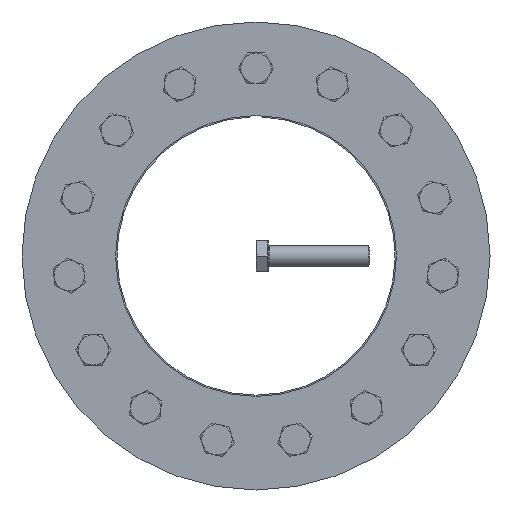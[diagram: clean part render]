
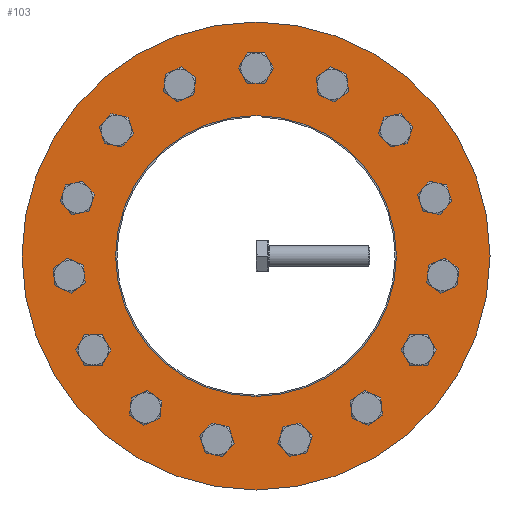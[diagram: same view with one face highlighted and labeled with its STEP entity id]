
A CAD part, front view. The second image highlights one B-rep face of the part: STEP entity #103.
In plain terms, the highlighted planar face has unit normal (0, -1, 0).
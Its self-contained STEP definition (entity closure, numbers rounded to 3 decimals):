
#103 = ADVANCED_FACE( '', ( #254, #255, #256, #257, #258, #259, #260, #261, #262, #263, #264, #265, #266, #267, #268, #269, #270 ), #271, .F. );
#254 = FACE_BOUND( '', #557, .T. );
#255 = FACE_BOUND( '', #558, .T. );
#256 = FACE_BOUND( '', #559, .T. );
#257 = FACE_BOUND( '', #560, .T. );
#258 = FACE_BOUND( '', #561, .T. );
#259 = FACE_BOUND( '', #562, .T. );
#260 = FACE_BOUND( '', #563, .T. );
#261 = FACE_OUTER_BOUND( '', #564, .T. );
#262 = FACE_BOUND( '', #565, .T. );
#263 = FACE_BOUND( '', #566, .T. );
#264 = FACE_BOUND( '', #567, .T. );
#265 = FACE_BOUND( '', #568, .T. );
#266 = FACE_BOUND( '', #569, .T. );
#267 = FACE_BOUND( '', #570, .T. );
#268 = FACE_BOUND( '', #571, .T. );
#269 = FACE_BOUND( '', #572, .T. );
#270 = FACE_BOUND( '', #573, .T. );
#271 = PLANE( '', #574 );
#557 = EDGE_LOOP( '', ( #902 ) );
#558 = EDGE_LOOP( '', ( #903 ) );
#559 = EDGE_LOOP( '', ( #904 ) );
#560 = EDGE_LOOP( '', ( #905 ) );
#561 = EDGE_LOOP( '', ( #906 ) );
#562 = EDGE_LOOP( '', ( #907 ) );
#563 = EDGE_LOOP( '', ( #908 ) );
#564 = EDGE_LOOP( '', ( #909 ) );
#565 = EDGE_LOOP( '', ( #910 ) );
#566 = EDGE_LOOP( '', ( #911 ) );
#567 = EDGE_LOOP( '', ( #912 ) );
#568 = EDGE_LOOP( '', ( #913 ) );
#569 = EDGE_LOOP( '', ( #914 ) );
#570 = EDGE_LOOP( '', ( #915 ) );
#571 = EDGE_LOOP( '', ( #916 ) );
#572 = EDGE_LOOP( '', ( #917 ) );
#573 = EDGE_LOOP( '', ( #918 ) );
#574 = AXIS2_PLACEMENT_3D( '', #919, #920, #921 );
#902 = ORIENTED_EDGE( '', *, *, #1371, .T. );
#903 = ORIENTED_EDGE( '', *, *, #1372, .T. );
#904 = ORIENTED_EDGE( '', *, *, #1373, .T. );
#905 = ORIENTED_EDGE( '', *, *, #1374, .T. );
#906 = ORIENTED_EDGE( '', *, *, #1375, .T. );
#907 = ORIENTED_EDGE( '', *, *, #1376, .T. );
#908 = ORIENTED_EDGE( '', *, *, #1377, .T. );
#909 = ORIENTED_EDGE( '', *, *, #1378, .T. );
#910 = ORIENTED_EDGE( '', *, *, #1379, .F. );
#911 = ORIENTED_EDGE( '', *, *, #1380, .T. );
#912 = ORIENTED_EDGE( '', *, *, #1381, .T. );
#913 = ORIENTED_EDGE( '', *, *, #1369, .T. );
#914 = ORIENTED_EDGE( '', *, *, #1382, .T. );
#915 = ORIENTED_EDGE( '', *, *, #1383, .T. );
#916 = ORIENTED_EDGE( '', *, *, #1384, .T. );
#917 = ORIENTED_EDGE( '', *, *, #1385, .T. );
#918 = ORIENTED_EDGE( '', *, *, #1386, .T. );
#919 = CARTESIAN_POINT( '', ( 0., -52., 185. ) );
#920 = DIRECTION( '', ( 0., 1., 0. ) );
#921 = DIRECTION( '', ( 0., 0., 1. ) );
#1369 = EDGE_CURVE( '', #1594, #1594, #1595, .T. );
#1371 = EDGE_CURVE( '', #1597, #1597, #1598, .T. );
#1372 = EDGE_CURVE( '', #1599, #1599, #1600, .T. );
#1373 = EDGE_CURVE( '', #1601, #1601, #1602, .T. );
#1374 = EDGE_CURVE( '', #1603, #1603, #1604, .T. );
#1375 = EDGE_CURVE( '', #1605, #1605, #1606, .T. );
#1376 = EDGE_CURVE( '', #1607, #1607, #1608, .T. );
#1377 = EDGE_CURVE( '', #1609, #1609, #1610, .T. );
#1378 = EDGE_CURVE( '', #1611, #1611, #1612, .T. );
#1379 = EDGE_CURVE( '', #1613, #1613, #1614, .T. );
#1380 = EDGE_CURVE( '', #1615, #1615, #1616, .T. );
#1381 = EDGE_CURVE( '', #1617, #1617, #1618, .T. );
#1382 = EDGE_CURVE( '', #1619, #1619, #1620, .T. );
#1383 = EDGE_CURVE( '', #1621, #1621, #1622, .T. );
#1384 = EDGE_CURVE( '', #1623, #1623, #1624, .T. );
#1385 = EDGE_CURVE( '', #1625, #1625, #1626, .T. );
#1386 = EDGE_CURVE( '', #1627, #1627, #1628, .T. );
#1594 = VERTEX_POINT( '', #2020 );
#1595 = CIRCLE( '', #2021, 8. );
#1597 = VERTEX_POINT( '', #2023 );
#1598 = CIRCLE( '', #2024, 8. );
#1599 = VERTEX_POINT( '', #2025 );
#1600 = CIRCLE( '', #2026, 8. );
#1601 = VERTEX_POINT( '', #2027 );
#1602 = CIRCLE( '', #2028, 8. );
#1603 = VERTEX_POINT( '', #2029 );
#1604 = CIRCLE( '', #2030, 8. );
#1605 = VERTEX_POINT( '', #2031 );
#1606 = CIRCLE( '', #2032, 8. );
#1607 = VERTEX_POINT( '', #2033 );
#1608 = CIRCLE( '', #2034, 8. );
#1609 = VERTEX_POINT( '', #2035 );
#1610 = CIRCLE( '', #2036, 8. );
#1611 = VERTEX_POINT( '', #2037 );
#1612 = CIRCLE( '', #2038, 185. );
#1613 = VERTEX_POINT( '', #2039 );
#1614 = CIRCLE( '', #2040, 111. );
#1615 = VERTEX_POINT( '', #2041 );
#1616 = CIRCLE( '', #2042, 8. );
#1617 = VERTEX_POINT( '', #2043 );
#1618 = CIRCLE( '', #2044, 8. );
#1619 = VERTEX_POINT( '', #2045 );
#1620 = CIRCLE( '', #2046, 8. );
#1621 = VERTEX_POINT( '', #2047 );
#1622 = CIRCLE( '', #2048, 8. );
#1623 = VERTEX_POINT( '', #2049 );
#1624 = CIRCLE( '', #2050, 8. );
#1625 = VERTEX_POINT( '', #2051 );
#1626 = CIRCLE( '', #2052, 8. );
#1627 = VERTEX_POINT( '', #2053 );
#1628 = CIRCLE( '', #2054, 8. );
#2020 = CARTESIAN_POINT( '', ( 146.85, -52., -23.479 ) );
#2021 = AXIS2_PLACEMENT_3D( '', #2346, #2347, #2348 );
#2023 = CARTESIAN_POINT( '', ( -105.004, -52., 105.311 ) );
#2024 = AXIS2_PLACEMENT_3D( '', #2349, #2350, #2351 );
#2025 = CARTESIAN_POINT( '', ( -148.523, -52., -7.566 ) );
#2026 = AXIS2_PLACEMENT_3D( '', #2352, #2353, #2354 );
#2027 = CARTESIAN_POINT( '', ( -93.758, -52., -115.437 ) );
#2028 = AXIS2_PLACEMENT_3D( '', #2355, #2356, #2357 );
#2029 = CARTESIAN_POINT( '', ( 23.05, -52., -146.918 ) );
#2030 = AXIS2_PLACEMENT_3D( '', #2358, #2359, #2360 );
#2031 = CARTESIAN_POINT( '', ( 124.605, -52., -81.178 ) );
#2032 = AXIS2_PLACEMENT_3D( '', #2361, #2362, #2363 );
#2033 = CARTESIAN_POINT( '', ( 143.704, -52., 38.281 ) );
#2034 = AXIS2_PLACEMENT_3D( '', #2364, #2365, #2366 );
#2035 = CARTESIAN_POINT( '', ( 67.709, -52., 132.408 ) );
#2036 = AXIS2_PLACEMENT_3D( '', #2367, #2368, #2369 );
#2037 = CARTESIAN_POINT( '', ( 0., -52., -185. ) );
#2038 = AXIS2_PLACEMENT_3D( '', #2370, #2371, #2372 );
#2039 = CARTESIAN_POINT( '', ( 0., -52., -111. ) );
#2040 = AXIS2_PLACEMENT_3D( '', #2373, #2374, #2375 );
#2041 = CARTESIAN_POINT( '', ( 8., -52., 148.5 ) );
#2042 = AXIS2_PLACEMENT_3D( '', #2376, #2377, #2378 );
#2043 = CARTESIAN_POINT( '', ( 115.71, -52., 93.421 ) );
#2044 = AXIS2_PLACEMENT_3D( '', #2379, #2380, #2381 );
#2045 = CARTESIAN_POINT( '', ( 80.814, -52., -124.841 ) );
#2046 = AXIS2_PLACEMENT_3D( '', #2382, #2383, #2384 );
#2047 = CARTESIAN_POINT( '', ( -38.7, -52., -143.592 ) );
#2048 = AXIS2_PLACEMENT_3D( '', #2385, #2386, #2387 );
#2049 = CARTESIAN_POINT( '', ( -132.605, -52., -67.322 ) );
#2050 = AXIS2_PLACEMENT_3D( '', #2388, #2389, #2390 );
#2051 = CARTESIAN_POINT( '', ( -138.76, -52., 53.497 ) );
#2052 = AXIS2_PLACEMENT_3D( '', #2391, #2392, #2393 );
#2053 = CARTESIAN_POINT( '', ( -53.092, -52., 138.915 ) );
#2054 = AXIS2_PLACEMENT_3D( '', #2394, #2395, #2396 );
#2346 = CARTESIAN_POINT( '', ( 147.687, -52., -15.522 ) );
#2347 = DIRECTION( '', ( 0., 1., 0. ) );
#2348 = DIRECTION( '', ( -0.105, 0., -0.995 ) );
#2349 = CARTESIAN_POINT( '', ( -110.357, -52., 99.366 ) );
#2350 = DIRECTION( '', ( 0., 1., 0. ) );
#2351 = DIRECTION( '', ( 0.669, 0., 0.743 ) );
#2352 = CARTESIAN_POINT( '', ( -147.687, -52., -15.522 ) );
#2353 = DIRECTION( '', ( 0., 1., 0. ) );
#2354 = DIRECTION( '', ( -0.105, 0., 0.995 ) );
#2355 = CARTESIAN_POINT( '', ( -87.286, -52., -120.139 ) );
#2356 = DIRECTION( '', ( 0., 1., 0. ) );
#2357 = DIRECTION( '', ( -0.809, 0., 0.588 ) );
#2358 = CARTESIAN_POINT( '', ( 30.875, -52., -145.255 ) );
#2359 = DIRECTION( '', ( 0., 1., 0. ) );
#2360 = DIRECTION( '', ( -0.978, 0., -0.208 ) );
#2361 = CARTESIAN_POINT( '', ( 128.605, -52., -74.25 ) );
#2362 = DIRECTION( '', ( 0., 1., 0. ) );
#2363 = DIRECTION( '', ( -0.5, 0., -0.866 ) );
#2364 = CARTESIAN_POINT( '', ( 141.232, -52., 45.889 ) );
#2365 = DIRECTION( '', ( 0., 1., 0. ) );
#2366 = DIRECTION( '', ( 0.309, 0., -0.951 ) );
#2367 = CARTESIAN_POINT( '', ( 60.4, -52., 135.662 ) );
#2368 = DIRECTION( '', ( 0., 1., 0. ) );
#2369 = DIRECTION( '', ( 0.914, 0., -0.407 ) );
#2370 = CARTESIAN_POINT( '', ( 0., -52., 0. ) );
#2371 = DIRECTION( '', ( 0., -1., 0. ) );
#2372 = DIRECTION( '', ( 0., 0., -1. ) );
#2373 = CARTESIAN_POINT( '', ( 0., -52., 0. ) );
#2374 = DIRECTION( '', ( 0., -1., 0. ) );
#2375 = DIRECTION( '', ( 0., 0., -1. ) );
#2376 = CARTESIAN_POINT( '', ( 0., -52., 148.5 ) );
#2377 = DIRECTION( '', ( 0., 1., 0. ) );
#2378 = DIRECTION( '', ( 1., 0., 0. ) );
#2379 = CARTESIAN_POINT( '', ( 110.357, -52., 99.366 ) );
#2380 = DIRECTION( '', ( 0., 1., 0. ) );
#2381 = DIRECTION( '', ( 0.669, 0., -0.743 ) );
#2382 = CARTESIAN_POINT( '', ( 87.286, -52., -120.139 ) );
#2383 = DIRECTION( '', ( 0., 1., 0. ) );
#2384 = DIRECTION( '', ( -0.809, 0., -0.588 ) );
#2385 = CARTESIAN_POINT( '', ( -30.875, -52., -145.255 ) );
#2386 = DIRECTION( '', ( 0., 1., 0. ) );
#2387 = DIRECTION( '', ( -0.978, 0., 0.208 ) );
#2388 = CARTESIAN_POINT( '', ( -128.605, -52., -74.25 ) );
#2389 = DIRECTION( '', ( 0., 1., 0. ) );
#2390 = DIRECTION( '', ( -0.5, 0., 0.866 ) );
#2391 = CARTESIAN_POINT( '', ( -141.232, -52., 45.889 ) );
#2392 = DIRECTION( '', ( 0., 1., 0. ) );
#2393 = DIRECTION( '', ( 0.309, 0., 0.951 ) );
#2394 = CARTESIAN_POINT( '', ( -60.4, -52., 135.662 ) );
#2395 = DIRECTION( '', ( 0., 1., 0. ) );
#2396 = DIRECTION( '', ( 0.914, 0., 0.407 ) );
